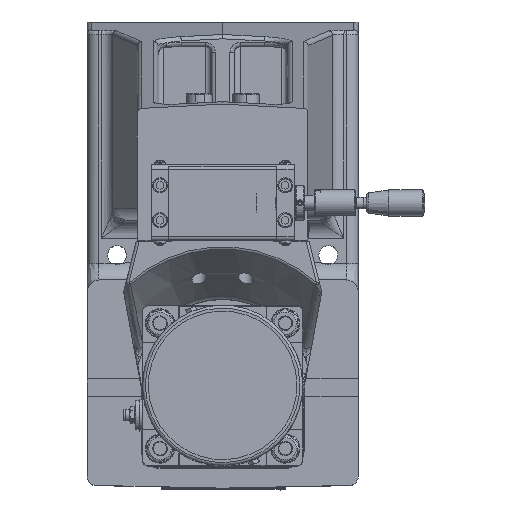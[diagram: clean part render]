
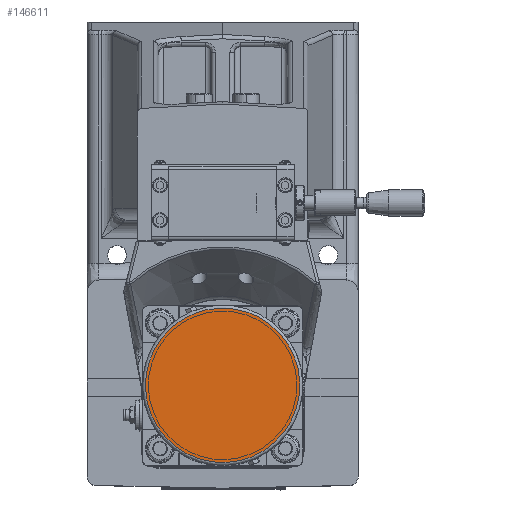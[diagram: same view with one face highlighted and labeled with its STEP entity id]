
A CAD part, top view. The second image highlights one B-rep face of the part: STEP entity #146611.
In plain terms, the highlighted planar face has unit normal (0, 0, 1).
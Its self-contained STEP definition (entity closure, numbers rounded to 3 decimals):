
#38246=PLANE('',#154784);
#45264=FACE_OUTER_BOUND('',#53426,.T.);
#53426=EDGE_LOOP('',(#113161));
#59294=CIRCLE('',#154783,53.);
#66333=VERTEX_POINT('',#219530);
#83201=EDGE_CURVE('',#66333,#66333,#59294,.T.);
#113161=ORIENTED_EDGE('',*,*,#83201,.F.);
#146611=ADVANCED_FACE('',(#45264),#38246,.F.);
#154783=AXIS2_PLACEMENT_3D('',#219531,#173105,#173106);
#154784=AXIS2_PLACEMENT_3D('',#219532,#173107,#173108);
#173105=DIRECTION('center_axis',(0.,0.,
-1.));
#173106=DIRECTION('ref_axis',(-0.924,-0.383,0.));
#173107=DIRECTION('center_axis',(0.,0.,
-1.));
#173108=DIRECTION('ref_axis',(-0.924,-0.383,0.));
#219530=CARTESIAN_POINT('',(48.966,-11.718,597.75));
#219531=CARTESIAN_POINT('Origin',(0.,-32.,
597.75));
#219532=CARTESIAN_POINT('Origin',(0.,-32.,
597.75));
